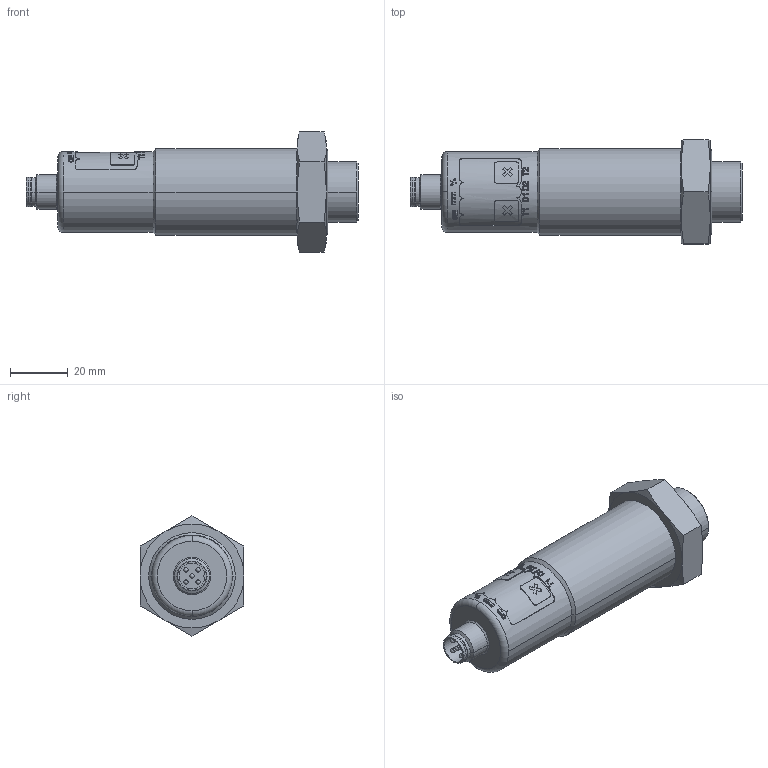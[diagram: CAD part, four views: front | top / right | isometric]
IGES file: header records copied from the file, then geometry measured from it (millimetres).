
Global section: file name: No Iges File Name specified; native system: Autodesk Inventor 2009; preprocessor: AutoDesk Inventor Iges Exporter R2009; author: Oliver Liedtke; date: 20090216.110317; units: millimetre
Bounding box: 115 x 36 x 41.57 mm (x, y, z)
Volume: 70862.7 mm3; surface area: 13225.4 mm2
Topology: 1 solids, 1 shells, 341 faces, 884 edges, 568 vertices
Faces by surface type: bspline 136, plane 111, cylinder 49, cone 26, torus 10, sphere 5, revolution 4
